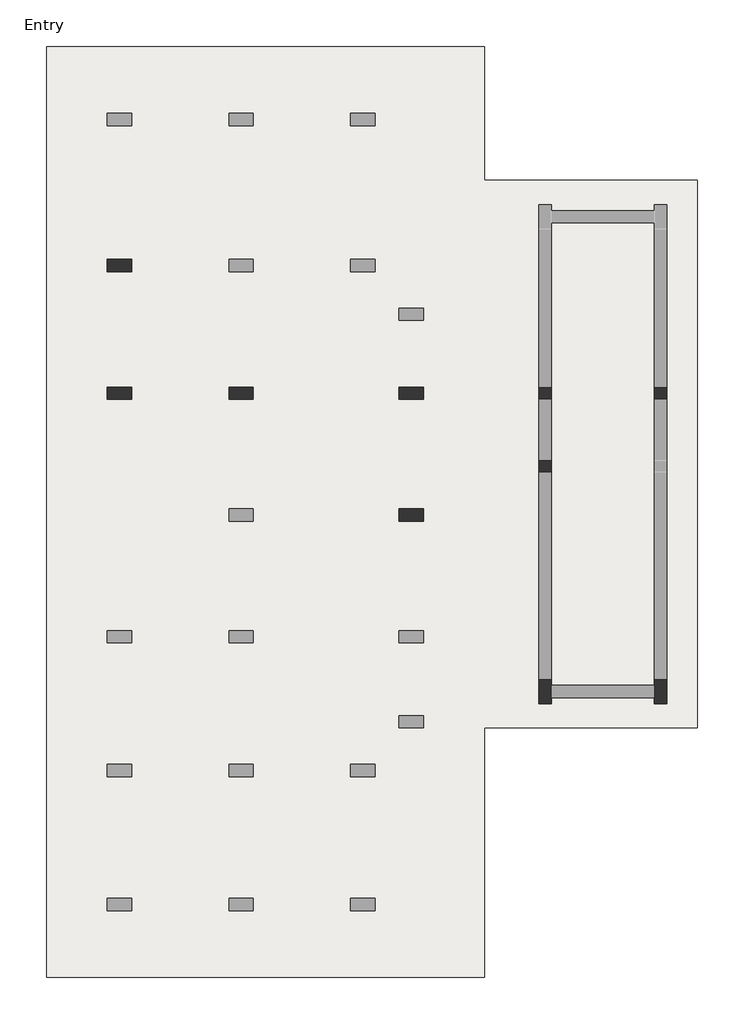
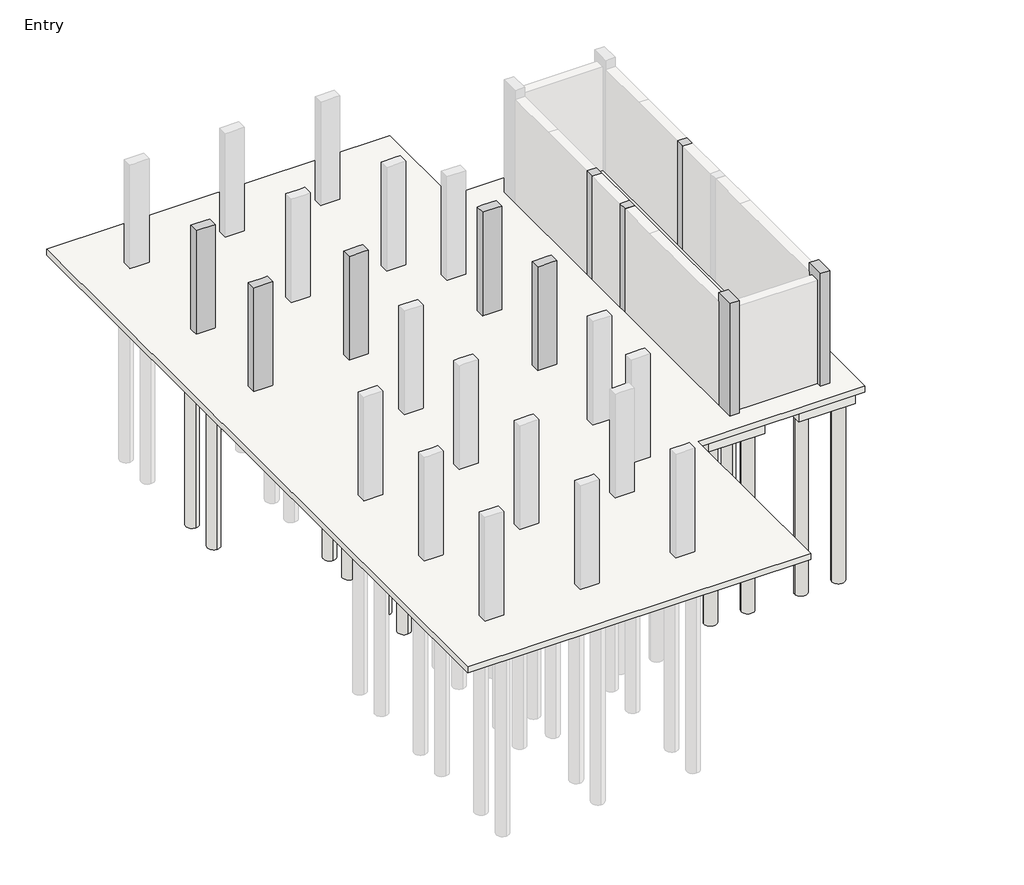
# One storey, part 2 of 3: 32 slabs, 13 columns, 4 footings.
"""IFC4 building model written with IfcOpenShell, lengths in millimetres."""

from ifc_helpers import new_model, si_unit, point, frame, frame_2d, origin, origin_with_axes, place, context, project, spatial, polyline, circle_curve, trimmed, segment, composite_curve, outline, extrude, faceted_brep, element, save

model = new_model("IFC4")

# Units and contexts
model_context = context("Model", 3, world=origin())
ifc_project = project(units=[si_unit("LENGTHUNIT", "METRE", prefix="MILLI")], contexts=[model_context])

# Site, building, storey
site = spatial("IfcSite", under=ifc_project)
building = spatial("IfcBuilding", under=site)
storey = spatial("IfcBuildingStorey", under=building, Name="Entry", Elevation=0.0)

# Columns
placement = place(None, origin())
element("IfcColumn", 1, ObjectType="Concrete-Rectangular-Column : 12 x 24", at=placement, inside=storey, context=model_context, shape_type="Brep", body=[
    faceted_brep([(-15677.5554735, 10989.3867088, 0.0), (-15067.9554735, 10989.3867088, 0.0), (-15067.9554735, 10684.5867088, 0.0), (-15677.5554735, 10684.5867088, 0.0), (-15677.5554735, 10989.3867088, 3505.2), (-15525.1554735, 10989.3867088, 3505.2), (-15220.3554735, 10989.3867088, 3505.2), (-15067.9554735, 10989.3867088, 3505.2), (-15067.9554735, 10989.3867088, 2895.6), (-15067.9554735, 10684.5867088, 3505.2), (-15067.9554735, 10684.5867088, 2895.6), (-15220.3554735, 10684.5867088, 3505.2), (-15525.1554735, 10684.5867088, 3505.2), (-15677.5554735, 10684.5867088, 3505.2)], [[[0, 1, 2, 3]], [[4, 5, 6, 7, 8, 1, 0]], [[7, 9, 10, 2, 1, 8]], [[9, 11, 12, 13, 3, 2, 10]], [[13, 4, 0, 3]], [[4, 13, 12, 11, 9, 7, 6, 5]]]),
])
element("IfcColumn", 2, ObjectType="Concrete-Rectangular-Column : 12 x 24", at=placement, inside=storey, context=model_context, shape_type="Brep", body=[
    faceted_brep([(-8362.3554735, 7788.9867088, 0.0), (-7752.7554735, 7788.9867088, 0.0), (-7752.7554735, 7484.1867088, 0.0), (-8362.3554735, 7484.1867088, 0.0), (-8362.3554735, 7788.9867088, 3505.2), (-8209.9554735, 7788.9867088, 3505.2), (-7905.1554735, 7788.9867088, 3505.2), (-7752.7554735, 7788.9867088, 3505.2), (-7752.7554735, 7788.9867088, 2895.6), (-8362.3554735, 7788.9867088, 2895.6), (-7752.7554735, 7484.1867088, 3505.2), (-7752.7554735, 7484.1867088, 2895.6), (-7905.1554735, 7484.1867088, 3505.2), (-8209.9554735, 7484.1867088, 3505.2), (-8362.3554735, 7484.1867088, 3505.2), (-8362.3554735, 7484.1867088, 2895.6)], [[[0, 1, 2, 3]], [[4, 5, 6, 7, 8, 1, 0, 9]], [[7, 10, 11, 2, 1, 8]], [[10, 12, 13, 14, 15, 3, 2, 11]], [[14, 4, 9, 0, 3, 15]], [[4, 14, 13, 12, 10, 7, 6, 5]]]),
])
element("IfcColumn", 3, ObjectType="Concrete-Rectangular-Column : 12 x 24", at=placement, inside=storey, context=model_context, shape_type="Brep", body=[
    faceted_brep([(-15677.5554735, 7788.9867088, 0.0), (-15067.9554735, 7788.9867088, 0.0), (-15067.9554735, 7484.1867088, 0.0), (-15677.5554735, 7484.1867088, 0.0), (-15677.5554735, 7788.9867088, 3505.2), (-15525.1554735, 7788.9867088, 3505.2), (-15220.3554735, 7788.9867088, 3505.2), (-15067.9554735, 7788.9867088, 3505.2), (-15067.9554735, 7788.9867088, 2895.6), (-15067.9554735, 7484.1867088, 3505.2), (-15067.9554735, 7484.1867088, 2895.6), (-15677.5554735, 7484.1867088, 3505.2)], [[[0, 1, 2, 3]], [[4, 5, 6, 7, 8, 1, 0]], [[7, 9, 10, 2, 1, 8]], [[9, 11, 3, 2, 10]], [[11, 4, 0, 3]], [[4, 11, 9, 7, 6, 5]]]),
])
element("IfcColumn", 4, ObjectType="Concrete-Rectangular-Column : 12 x 24", at=placement, inside=storey, context=model_context, shape_type="Brep", body=[
    faceted_brep([(-12629.5554735, 7788.9867088, 0.0), (-12019.9554735, 7788.9867088, 0.0), (-12019.9554735, 7484.1867088, 0.0), (-12629.5554735, 7484.1867088, 0.0), (-12629.5554735, 7788.9867088, 3505.2), (-12477.1554735, 7788.9867088, 3505.2), (-12172.3554735, 7788.9867088, 3505.2), (-12019.9554735, 7788.9867088, 3505.2), (-12019.9554735, 7788.9867088, 2895.6), (-12629.5554735, 7788.9867088, 2895.6), (-12019.9554735, 7484.1867088, 3505.2), (-12019.9554735, 7484.1867088, 2895.6), (-12172.3554735, 7484.1867088, 3505.2), (-12477.1554735, 7484.1867088, 3505.2), (-12629.5554735, 7484.1867088, 3505.2), (-12629.5554735, 7484.1867088, 2895.6)], [[[0, 1, 2, 3]], [[4, 5, 6, 7, 8, 1, 0, 9]], [[7, 10, 11, 2, 1, 8]], [[10, 12, 13, 14, 15, 3, 2, 11]], [[14, 4, 9, 0, 3, 15]], [[4, 14, 13, 12, 10, 7, 6, 5]]]),
])
element("IfcColumn", 5, ObjectType="Concrete-Rectangular-Column : 12 x 24", at=placement, inside=storey, context=model_context, shape_type="Brep", body=[
    faceted_brep([(-8362.3554735, 4740.9867088, 0.0), (-7752.7554735, 4740.9867088, 0.0), (-7752.7554735, 4436.1867088, 0.0), (-8362.3554735, 4436.1867088, 0.0), (-8362.3554735, 4740.9867088, 3505.2), (-8209.9554735, 4740.9867088, 3505.2), (-7905.1554735, 4740.9867088, 3505.2), (-7752.7554735, 4740.9867088, 3505.2), (-8362.3554735, 4740.9867088, 2895.6), (-7752.7554735, 4436.1867088, 3505.2), (-7905.1554735, 4436.1867088, 3505.2), (-8209.9554735, 4436.1867088, 3505.2), (-8362.3554735, 4436.1867088, 3505.2), (-8362.3554735, 4436.1867088, 2895.6)], [[[0, 1, 2, 3]], [[4, 5, 6, 7, 1, 0, 8]], [[7, 9, 2, 1]], [[9, 10, 11, 12, 13, 3, 2]], [[12, 4, 8, 0, 3, 13]], [[4, 12, 11, 10, 9, 7, 6, 5]]]),
])
element("IfcColumn", 6, ObjectType="Concrete-Rectangular-Column : 12 x 24", at=placement, inside=storey, context=model_context, shape_type="SweptSolid", body=[
    extrude(outline(polyline([(-4857.1554735, 7788.9867088), (-4552.3554735, 7788.9867088), (-4552.3554735, 7484.1867088), (-4857.1554735, 7484.1867088), (-4857.1554735, 7788.9867088)])), origin_with_axes(), (0.0, 0.0, 1.0), 3505.2),
])
element("IfcColumn", 7, ObjectType="Concrete-Rectangular-Column : 12 x 24", at=placement, inside=storey, context=model_context, shape_type="SweptSolid", body=[
    extrude(outline(polyline([(-4552.3554735, 5655.3867088), (-4857.1554735, 5655.3867088), (-4857.1554735, 5960.1867088), (-4552.3554735, 5960.1867088), (-4552.3554735, 5655.3867088)])), origin_with_axes(), (0.0, 0.0, 1.0), 3505.2),
])
element("IfcColumn", 8, ObjectType="Concrete-Rectangular-Column : 12 x 24", at=placement, inside=storey, context=model_context, shape_type="Brep", body=[
    faceted_brep([(-4552.3554735, 473.7867088, 0.0), (-4552.3554735, 321.3867088, 0.0), (-4552.3554735, 16.5867088, 0.0), (-4552.3554735, -135.8132912, 0.0), (-4857.1554735, -135.8132912, 0.0), (-4857.1554735, 473.7867088, 0.0), (-4552.3554735, 473.7867088, 3810.0), (-4552.3554735, -135.8132912, 3810.0), (-4552.3554735, 473.7867088, 3505.2), (-4857.1554735, -135.8132912, 3810.0), (-4857.1554735, 473.7867088, 3810.0), (-4857.1554735, 473.7867088, 3505.2)], [[[0, 1, 2, 3, 4, 5]], [[6, 7, 3, 2, 1, 0, 8]], [[7, 9, 4, 3]], [[9, 10, 11, 5, 4]], [[10, 6, 8, 0, 5, 11]], [[6, 10, 9, 7]]]),
])
element("IfcColumn", 9, ObjectType="Concrete-Rectangular-Column : 12 x 24", at=placement, inside=storey, context=model_context, shape_type="Brep", body=[
    faceted_brep([(-1656.7554735, 473.7867088, 0.0), (-1656.7554735, -135.8132912, 0.0), (-1961.5554735, -135.8132912, 0.0), (-1961.5554735, 16.5867088, 0.0), (-1961.5554735, 321.3867088, 0.0), (-1961.5554735, 473.7867088, 0.0), (-1656.7554735, 473.7867088, 3810.0), (-1656.7554735, -135.8132912, 3810.0), (-1656.7554735, 473.7867088, 3505.2), (-1961.5554735, -135.8132912, 3810.0), (-1961.5554735, 473.7867088, 3810.0), (-1961.5554735, 473.7867088, 3505.2)], [[[0, 1, 2, 3, 4, 5]], [[6, 7, 1, 0, 8]], [[7, 9, 2, 1]], [[9, 10, 11, 5, 4, 3, 2]], [[10, 6, 8, 0, 5, 11]], [[6, 10, 9, 7]]]),
])
element("IfcColumn", 10, ObjectType="Concrete-Rectangular-Column : 12 x 24", at=placement, inside=storey, context=model_context, shape_type="SweptSolid", body=[
    extrude(outline(polyline([(-1961.5554735, 7788.9867088), (-1656.7554735, 7788.9867088), (-1656.7554735, 7484.1867088), (-1961.5554735, 7484.1867088), (-1961.5554735, 7788.9867088)])), origin_with_axes(), (0.0, 0.0, 1.0), 3505.2),
])
element("IfcColumn", 11, ObjectType="Concrete-Rectangular-Column : 12 x 24", at=placement, inside=storey, context=model_context, shape_type="Brep", body=[
    faceted_brep([(-15677.5554735, 10989.3867088, 0.0), (-15067.9554735, 10989.3867088, 0.0), (-15067.9554735, 10684.5867088, 0.0), (-15677.5554735, 10684.5867088, 0.0), (-15677.5554735, 10989.3867088, 3505.2), (-15525.1554735, 10989.3867088, 3505.2), (-15220.3554735, 10989.3867088, 3505.2), (-15067.9554735, 10989.3867088, 3505.2), (-15067.9554735, 10989.3867088, 2895.6), (-15067.9554735, 10684.5867088, 3505.2), (-15067.9554735, 10684.5867088, 2895.6), (-15220.3554735, 10684.5867088, 3505.2), (-15525.1554735, 10684.5867088, 3505.2), (-15677.5554735, 10684.5867088, 3505.2)], [[[0, 1, 2, 3]], [[4, 5, 6, 7, 8, 1, 0]], [[7, 9, 10, 2, 1, 8]], [[9, 11, 12, 13, 3, 2, 10]], [[13, 4, 0, 3]], [[4, 13, 12, 11, 9, 7, 6, 5]]]),
])
element("IfcColumn", 12, ObjectType="Concrete-Rectangular-Column : 12 x 24", at=placement, inside=storey, context=model_context, shape_type="Brep", body=[
    faceted_brep([(-8362.3554735, 7788.9867088, 0.0), (-7752.7554735, 7788.9867088, 0.0), (-7752.7554735, 7484.1867088, 0.0), (-8362.3554735, 7484.1867088, 0.0), (-8362.3554735, 7788.9867088, 3505.2), (-8209.9554735, 7788.9867088, 3505.2), (-7905.1554735, 7788.9867088, 3505.2), (-7752.7554735, 7788.9867088, 3505.2), (-7752.7554735, 7788.9867088, 2895.6), (-8362.3554735, 7788.9867088, 2895.6), (-7752.7554735, 7484.1867088, 3505.2), (-7752.7554735, 7484.1867088, 2895.6), (-7905.1554735, 7484.1867088, 3505.2), (-8209.9554735, 7484.1867088, 3505.2), (-8362.3554735, 7484.1867088, 3505.2), (-8362.3554735, 7484.1867088, 2895.6)], [[[0, 1, 2, 3]], [[4, 5, 6, 7, 8, 1, 0, 9]], [[7, 10, 11, 2, 1, 8]], [[10, 12, 13, 14, 15, 3, 2, 11]], [[14, 4, 9, 0, 3, 15]], [[4, 14, 13, 12, 10, 7, 6, 5]]]),
])
element("IfcColumn", 13, ObjectType="Concrete-Rectangular-Column : 12 x 24", at=placement, inside=storey, context=model_context, shape_type="Brep", body=[
    faceted_brep([(-12629.5554735, 7788.9867088, 0.0), (-12019.9554735, 7788.9867088, 0.0), (-12019.9554735, 7484.1867088, 0.0), (-12629.5554735, 7484.1867088, 0.0), (-12629.5554735, 7788.9867088, 3505.2), (-12477.1554735, 7788.9867088, 3505.2), (-12172.3554735, 7788.9867088, 3505.2), (-12019.9554735, 7788.9867088, 3505.2), (-12019.9554735, 7788.9867088, 2895.6), (-12629.5554735, 7788.9867088, 2895.6), (-12019.9554735, 7484.1867088, 3505.2), (-12019.9554735, 7484.1867088, 2895.6), (-12172.3554735, 7484.1867088, 3505.2), (-12477.1554735, 7484.1867088, 3505.2), (-12629.5554735, 7484.1867088, 3505.2), (-12629.5554735, 7484.1867088, 2895.6)], [[[0, 1, 2, 3]], [[4, 5, 6, 7, 8, 1, 0, 9]], [[7, 10, 11, 2, 1, 8]], [[10, 12, 13, 14, 15, 3, 2, 11]], [[14, 4, 9, 0, 3, 15]], [[4, 14, 13, 12, 10, 7, 6, 5]]]),
])

# Footings
element("IfcFooting", 14, ObjectType="Bearing Footing - 36\" x 12\"", at=placement, inside=storey, context=model_context, shape_type="Brep", body=[
    faceted_brep([(-1351.9554735, 5655.3867088, -304.8), (-1402.7554735, 5655.3867088, -304.8), (-1402.7554735, 5655.3867088, -203.2), (-1351.9554735, 5655.3867088, -203.2), (-2215.5554735, 5655.3867088, -304.8), (-2266.3554735, 5655.3867088, -304.8), (-2266.3554735, 5655.3867088, -203.2), (-2215.5554735, 5655.3867088, -203.2), (-2266.3554735, 626.1867088, -304.8), (-2266.3554735, 575.3867088, -304.8), (-2266.3554735, 575.3867088, -203.2), (-2266.3554735, 626.1867088, -203.2), (-1351.9554735, 575.3867088, -304.8), (-2215.5554735, 4906.0867088, -304.8), (-1402.7554735, 4906.0867088, -304.8), (-1351.9554735, 575.3867088, -203.2), (-1402.7554735, 4906.0867088, -203.2), (-2215.5554735, 4906.0867088, -203.2)], [[[0, 1, 2, 3]], [[4, 5, 6, 7]], [[5, 8, 9, 10, 11, 6]], [[1, 0, 12, 9, 8, 5, 4, 13, 14]], [[12, 0, 3, 15]], [[1, 14, 16, 2]], [[13, 4, 7, 17]], [[14, 13, 17, 16]], [[9, 12, 15, 10]], [[7, 6, 11, 10, 15, 3, 2, 16, 17]]]),
])
element("IfcFooting", 15, ObjectType="Bearing Footing - 36\" x 12\"", at=placement, inside=storey, context=model_context, shape_type="Brep", body=[
    faceted_brep([(-4552.3554735, -237.4132912, -304.8), (-4552.3554735, -288.2132912, -304.8), (-4552.3554735, -288.2132912, -203.2), (-4552.3554735, -237.4132912, -203.2), (-4552.3554735, 626.1867088, -304.8), (-4552.3554735, 575.3867088, -304.8), (-4552.3554735, 575.3867088, -203.2), (-4552.3554735, 626.1867088, -203.2), (-1961.5554735, -288.2132912, -304.8), (-1961.5554735, -237.4132912, -304.8), (-1961.5554735, -237.4132912, -203.2), (-1961.5554735, -288.2132912, -203.2), (-2266.3554735, 626.1867088, -304.8), (-4247.5554735, 626.1867088, -304.8), (-4247.5554735, 626.1867088, -203.2), (-2266.3554735, 626.1867088, -203.2), (-3803.0554735, -237.4132912, -304.8), (-3803.0554735, 575.3867088, -304.8), (-2266.3554735, 575.3867088, -304.8), (-2710.8554735, 575.3867088, -304.8), (-2710.8554735, -237.4132912, -304.8), (-3803.0554735, 575.3867088, -203.2), (-3803.0554735, -237.4132912, -203.2), (-2266.3554735, 575.3867088, -203.2), (-2710.8554735, 575.3867088, -203.2), (-2710.8554735, -237.4132912, -203.2)], [[[0, 1, 2, 3]], [[4, 5, 6, 7]], [[8, 9, 10, 11]], [[12, 13, 4, 7, 14, 15]], [[8, 1, 0, 16, 17, 5, 4, 13, 12, 18, 19, 20, 9]], [[1, 8, 11, 2]], [[5, 17, 21, 6]], [[16, 0, 3, 22]], [[17, 16, 22, 21]], [[19, 18, 23, 24]], [[20, 19, 24, 25]], [[9, 20, 25, 10]], [[18, 12, 15, 23]], [[7, 6, 21, 22, 3, 2, 11, 10, 25, 24, 23, 15, 14]]]),
])
element("IfcFooting", 16, ObjectType="Bearing Footing - 36\" x 12\"", at=placement, inside=storey, context=model_context, shape_type="SweptSolid", body=[
    extrude(outline(polyline([(-4298.3554735, 5655.3867088), (-4247.5554735, 5655.3867088), (-4247.5554735, 626.1867088), (-4552.3554735, 626.1867088), (-4552.3554735, 575.3867088), (-5161.9554735, 575.3867088), (-5161.9554735, 5655.3867088), (-5111.1554735, 5655.3867088), (-5111.1554735, 4906.0867088), (-4298.3554735, 4906.0867088), (-4298.3554735, 5655.3867088)])), frame((0.0, 0.0, -304.8), z_axis=(0.0, 0.0, 1.0), x_axis=(1.0, 0.0, 0.0)), (0.0, 0.0, 1.0), 101.6),
])
element("IfcFooting", 17, ObjectType="Bearing Footing - 36\" x 12\"", at=placement, inside=storey, context=model_context, shape_type="SweptSolid", body=[
    extrude(outline(polyline([(-1351.9554735, 7484.1867088), (-1351.9554735, 5960.1867088), (-1402.7554735, 5960.1867088), (-1402.7554735, 6709.4867088), (-2215.5554735, 6709.4867088), (-2215.5554735, 5960.1867088), (-2266.3554735, 5960.1867088), (-2266.3554735, 7484.1867088), (-2215.5554735, 7484.1867088), (-2215.5554735, 6734.8867088), (-1402.7554735, 6734.8867088), (-1402.7554735, 7484.1867088), (-1351.9554735, 7484.1867088)])), frame((0.0, 0.0, -304.8), z_axis=(0.0, 0.0, 1.0), x_axis=(1.0, 0.0, 0.0)), (0.0, 0.0, 1.0), 101.6),
])

# Slabs
element("IfcSlab", 18, ObjectType="8\" Foundation Slab", at=placement, inside=storey, context=model_context, shape_type="SweptSolid", body=[
    extrude(outline(polyline([(-6228.7554735, 16323.3867088), (-6228.7554735, 12970.5867088), (-894.7554735, 12970.5867088), (-894.7554735, -745.4132912), (-6228.7554735, -745.4132912), (-6228.7554735, -6993.8132912), (-17201.5554735, -6993.8132912), (-17201.5554735, 16323.3867088), (-6228.7554735, 16323.3867088)])), frame((0.0, 0.0, -203.2), z_axis=(0.0, 0.0, 1.0), x_axis=(1.0, 0.0, 0.0)), (0.0, 0.0, 1.0), 203.2),
])
element("IfcSlab", 19, ObjectType="Pile Cap-2 Pile : 31\"x61\"x35\"", at=placement, inside=storey, context=model_context, shape_type="SweptSolid", body=[
    extrude(outline(polyline([(-15779.1554735, 11738.6867088), (-14966.3554735, 11738.6867088), (-14966.3554735, 9935.2867088), (-15779.1554735, 9935.2867088), (-15779.1554735, 11738.6867088)])), frame((0.0, 0.0, -889.0), z_axis=(0.0, 0.0, 1.0), x_axis=(1.0, 0.0, 0.0)), (0.0, 0.0, 1.0), 685.8),
])
element("IfcSlab", 20, ObjectType="Pile Cap-2 Pile : 31\"x61\"x35\"", at=placement, inside=storey, context=model_context, shape_type="SweptSolid", body=[
    extrude(outline(polyline([(-8463.9554735, 5490.2867088), (-7651.1554735, 5490.2867088), (-7651.1554735, 3686.8867088), (-8463.9554735, 3686.8867088), (-8463.9554735, 5490.2867088)])), frame((0.0, 0.0, -889.0), z_axis=(0.0, 0.0, 1.0), x_axis=(1.0, 0.0, 0.0)), (0.0, 0.0, 1.0), 685.8),
])
element("IfcSlab", 21, ObjectType="Pile Cap-2 Pile : 31\"x61\"x35\"", at=placement, inside=storey, context=model_context, shape_type="SweptSolid", body=[
    extrude(outline(polyline([(-8463.9554735, 8538.2867088), (-7651.1554735, 8538.2867088), (-7651.1554735, 6734.8867088), (-8463.9554735, 6734.8867088), (-8463.9554735, 8538.2867088)])), frame((0.0, 0.0, -889.0), z_axis=(0.0, 0.0, 1.0), x_axis=(1.0, 0.0, 0.0)), (0.0, 0.0, 1.0), 685.8),
])
element("IfcSlab", 22, ObjectType="Pile Cap-2 Pile : 31\"x61\"x35\"", at=placement, inside=storey, context=model_context, shape_type="Brep", body=[
    faceted_brep([(-5111.1554735, 8538.2867088, -889.0), (-4298.3554735, 8538.2867088, -889.0), (-4298.3554735, 6734.8867088, -889.0), (-5111.1554735, 6734.8867088, -889.0), (-5111.1554735, 6734.8867088, -203.2), (-5111.1554735, 7788.9867088, -203.2), (-5111.1554735, 8538.2867088, -203.2), (-5111.1554735, 8538.2867088, -304.8), (-4298.3554735, 6734.8867088, -203.2), (-4298.3554735, 8538.2867088, -304.8), (-4298.3554735, 8538.2867088, -203.2), (-4298.3554735, 7788.9867088, -203.2)], [[[0, 1, 2, 3]], [[0, 3, 4, 5, 6, 7]], [[3, 2, 8, 4]], [[2, 1, 9, 10, 11, 8]], [[1, 0, 7, 6, 10, 9]], [[6, 5, 4, 8, 11, 10]]]),
])
element("IfcSlab", 23, ObjectType="Pile Cap-2 Pile : 31\"x61\"x35\"", at=placement, inside=storey, context=model_context, shape_type="Brep", body=[
    faceted_brep([(-2215.5554735, 8538.2867088, -889.0), (-1402.7554735, 8538.2867088, -889.0), (-1402.7554735, 6734.8867088, -889.0), (-2215.5554735, 6734.8867088, -889.0), (-2215.5554735, 6734.8867088, -304.8), (-2215.5554735, 6734.8867088, -203.2), (-2215.5554735, 7484.1867088, -203.2), (-2215.5554735, 7788.9867088, -203.2), (-2215.5554735, 8538.2867088, -203.2), (-2215.5554735, 8538.2867088, -304.8), (-1402.7554735, 6734.8867088, -304.8), (-1402.7554735, 6734.8867088, -203.2), (-1402.7554735, 8538.2867088, -304.8), (-1402.7554735, 8538.2867088, -203.2), (-1402.7554735, 7788.9867088, -203.2), (-1402.7554735, 7484.1867088, -203.2)], [[[0, 1, 2, 3]], [[0, 3, 4, 5, 6, 7, 8, 9]], [[3, 2, 10, 11, 5, 4]], [[2, 1, 12, 13, 14, 15, 11, 10]], [[1, 0, 9, 8, 13, 12]], [[8, 7, 6, 5, 11, 15, 14, 13]]]),
])
element("IfcSlab", 24, ObjectType="Pile Cap-2 Pile : 31\"x61\"x35\"", at=placement, inside=storey, context=model_context, shape_type="Brep", body=[
    faceted_brep([(-4298.3554735, 4906.0867088, -889.0), (-5111.1554735, 4906.0867088, -889.0), (-5111.1554735, 6709.4867088, -889.0), (-4298.3554735, 6709.4867088, -889.0), (-4298.3554735, 6709.4867088, -203.2), (-4298.3554735, 5655.3867088, -203.2), (-4298.3554735, 4906.0867088, -203.2), (-4298.3554735, 4906.0867088, -304.8), (-5111.1554735, 6709.4867088, -203.2), (-5111.1554735, 4906.0867088, -304.8), (-5111.1554735, 4906.0867088, -203.2), (-5111.1554735, 5655.3867088, -203.2)], [[[0, 1, 2, 3]], [[0, 3, 4, 5, 6, 7]], [[3, 2, 8, 4]], [[2, 1, 9, 10, 11, 8]], [[1, 0, 7, 6, 10, 9]], [[6, 5, 4, 8, 11, 10]]]),
])
element("IfcSlab", 25, ObjectType="Pile Cap-2 Pile : 31\"x61\"x35\"", at=placement, inside=storey, context=model_context, shape_type="Brep", body=[
    faceted_brep([(-1402.7554735, 4906.0867088, -889.0), (-2215.5554735, 4906.0867088, -889.0), (-2215.5554735, 6709.4867088, -889.0), (-1402.7554735, 6709.4867088, -889.0), (-1402.7554735, 6709.4867088, -304.8), (-1402.7554735, 6709.4867088, -203.2), (-1402.7554735, 5960.1867088, -203.2), (-1402.7554735, 5655.3867088, -203.2), (-1402.7554735, 4906.0867088, -203.2), (-1402.7554735, 4906.0867088, -304.8), (-2215.5554735, 6709.4867088, -304.8), (-2215.5554735, 6709.4867088, -203.2), (-2215.5554735, 4906.0867088, -304.8), (-2215.5554735, 4906.0867088, -203.2), (-2215.5554735, 5655.3867088, -203.2), (-2215.5554735, 5960.1867088, -203.2)], [[[0, 1, 2, 3]], [[0, 3, 4, 5, 6, 7, 8, 9]], [[3, 2, 10, 11, 5, 4]], [[2, 1, 12, 13, 14, 15, 11, 10]], [[1, 0, 9, 8, 13, 12]], [[8, 7, 6, 5, 11, 15, 14, 13]]]),
])
element("IfcSlab", 26, ObjectType="Pile Cap-2 Pile : 31\"x61\"x35\"", at=placement, inside=storey, context=model_context, shape_type="Brep", body=[
    faceted_brep([(-3803.0554735, 575.3867088, -889.0), (-3803.0554735, -237.4132912, -889.0), (-5606.4554735, -237.4132912, -889.0), (-5606.4554735, 575.3867088, -889.0), (-5606.4554735, 575.3867088, -203.2), (-5161.9554735, 575.3867088, -203.2), (-4552.3554735, 575.3867088, -203.2), (-3803.0554735, 575.3867088, -203.2), (-3803.0554735, 575.3867088, -304.8), (-5606.4554735, -237.4132912, -203.2), (-3803.0554735, -237.4132912, -304.8), (-3803.0554735, -237.4132912, -203.2), (-4552.3554735, -237.4132912, -203.2)], [[[0, 1, 2, 3]], [[0, 3, 4, 5, 6, 7, 8]], [[3, 2, 9, 4]], [[2, 1, 10, 11, 12, 9]], [[1, 0, 8, 7, 11, 10]], [[7, 6, 5, 4, 9, 12, 11]]]),
])
element("IfcSlab", 27, ObjectType="Pile Cap-2 Pile : 31\"x61\"x35\"", at=placement, inside=storey, context=model_context, shape_type="Brep", body=[
    faceted_brep([(-907.4554735, 575.3867088, -889.0), (-907.4554735, -237.4132912, -889.0), (-2710.8554735, -237.4132912, -889.0), (-2710.8554735, 575.3867088, -889.0), (-2710.8554735, 575.3867088, -304.8), (-2710.8554735, 575.3867088, -203.2), (-2266.3554735, 575.3867088, -203.2), (-1351.9554735, 575.3867088, -203.2), (-907.4554735, 575.3867088, -203.2), (-2710.8554735, -237.4132912, -304.8), (-2710.8554735, -237.4132912, -203.2), (-907.4554735, -237.4132912, -203.2), (-1961.5554735, -237.4132912, -203.2)], [[[0, 1, 2, 3]], [[0, 3, 4, 5, 6, 7, 8]], [[3, 2, 9, 10, 5, 4]], [[2, 1, 11, 12, 10, 9]], [[1, 0, 8, 11]], [[8, 7, 6, 5, 10, 12, 11]]]),
])
element("IfcSlab", 28, ObjectType="Pile Cap-4 Pile : 72\"x72\"x35\"", at=placement, inside=storey, context=model_context, shape_type="SweptSolid", body=[
    extrude(outline(polyline([(-13239.1554735, 8550.9867088), (-11410.3554735, 8550.9867088), (-11410.3554735, 6722.1867088), (-13239.1554735, 6722.1867088), (-13239.1554735, 8550.9867088)])), frame((0.0, 0.0, -889.0), z_axis=(0.0, 0.0, 1.0), x_axis=(1.0, 0.0, 0.0)), (0.0, 0.0, 1.0), 685.8),
])
element("IfcSlab", 29, ObjectType="Pile-Steel Pipe : 16\" Diameter", at=placement, inside=storey, context=model_context, shape_type="SweptSolid", body=[
    extrude(outline(composite_curve([segment(trimmed(circle_curve(frame_2d((-12858.1554735, 7103.1867088)), 203.2), [point((-12858.1554735, 6899.9867088))], [point((-12858.1554735, 7306.3867088))], False, "CARTESIAN"), True, "CONTINUOUS"), segment(trimmed(circle_curve(frame_2d((-12858.1554735, 7103.1867088)), 203.2), [point((-12858.1554735, 7306.3867088))], [point((-12858.1554735, 6899.9867088))], False, "CARTESIAN"), True, "CONTINUOUS")], self_intersect=False)), frame((0.0, 0.0, -6985.0), z_axis=(0.0, 0.0, 1.0), x_axis=(1.0, 0.0, 0.0)), (0.0, 0.0, 1.0), 6096.0),
])
element("IfcSlab", 30, ObjectType="Pile-Steel Pipe : 16\" Diameter", at=placement, inside=storey, context=model_context, shape_type="SweptSolid", body=[
    extrude(outline(composite_curve([segment(trimmed(circle_curve(frame_2d((-11791.3554735, 7103.1867088)), 203.2), [point((-11791.3554735, 6899.9867088))], [point((-11791.3554735, 7306.3867088))], False, "CARTESIAN"), True, "CONTINUOUS"), segment(trimmed(circle_curve(frame_2d((-11791.3554735, 7103.1867088)), 203.2), [point((-11791.3554735, 7306.3867088))], [point((-11791.3554735, 6899.9867088))], False, "CARTESIAN"), True, "CONTINUOUS")], self_intersect=False)), frame((0.0, 0.0, -6985.0), z_axis=(0.0, 0.0, 1.0), x_axis=(1.0, 0.0, 0.0)), (0.0, 0.0, 1.0), 6096.0),
])
element("IfcSlab", 31, ObjectType="Pile-Steel Pipe : 16\" Diameter", at=placement, inside=storey, context=model_context, shape_type="SweptSolid", body=[
    extrude(outline(composite_curve([segment(trimmed(circle_curve(frame_2d((-12858.1554735, 8169.9867088)), 203.2), [point((-12858.1554735, 7966.7867088))], [point((-12858.1554735, 8373.1867088))], False, "CARTESIAN"), True, "CONTINUOUS"), segment(trimmed(circle_curve(frame_2d((-12858.1554735, 8169.9867088)), 203.2), [point((-12858.1554735, 8373.1867088))], [point((-12858.1554735, 7966.7867088))], False, "CARTESIAN"), True, "CONTINUOUS")], self_intersect=False)), frame((0.0, 0.0, -6985.0), z_axis=(0.0, 0.0, 1.0), x_axis=(1.0, 0.0, 0.0)), (0.0, 0.0, 1.0), 6096.0),
])
element("IfcSlab", 32, ObjectType="Pile-Steel Pipe : 16\" Diameter", at=placement, inside=storey, context=model_context, shape_type="SweptSolid", body=[
    extrude(outline(composite_curve([segment(trimmed(circle_curve(frame_2d((-12858.1554735, 4055.1867088)), 203.2), [point((-12858.1554735, 3851.9867088))], [point((-12858.1554735, 4258.3867088))], False, "CARTESIAN"), True, "CONTINUOUS"), segment(trimmed(circle_curve(frame_2d((-12858.1554735, 4055.1867088)), 203.2), [point((-12858.1554735, 4258.3867088))], [point((-12858.1554735, 3851.9867088))], False, "CARTESIAN"), True, "CONTINUOUS")], self_intersect=False)), frame((0.0, 0.0, -6985.0), z_axis=(0.0, 0.0, 1.0), x_axis=(1.0, 0.0, 0.0)), (0.0, 0.0, 1.0), 6096.0),
])
element("IfcSlab", 33, ObjectType="Pile-Steel Pipe : 16\" Diameter", at=placement, inside=storey, context=model_context, shape_type="SweptSolid", body=[
    extrude(outline(composite_curve([segment(trimmed(circle_curve(frame_2d((-11791.3554735, 4055.1867088)), 203.2), [point((-11791.3554735, 3851.9867088))], [point((-11791.3554735, 4258.3867088))], False, "CARTESIAN"), True, "CONTINUOUS"), segment(trimmed(circle_curve(frame_2d((-11791.3554735, 4055.1867088)), 203.2), [point((-11791.3554735, 4258.3867088))], [point((-11791.3554735, 3851.9867088))], False, "CARTESIAN"), True, "CONTINUOUS")], self_intersect=False)), frame((0.0, 0.0, -6985.0), z_axis=(0.0, 0.0, 1.0), x_axis=(1.0, 0.0, 0.0)), (0.0, 0.0, 1.0), 6096.0),
])
element("IfcSlab", 34, ObjectType="Pile-Steel Pipe : 16\" Diameter", at=placement, inside=storey, context=model_context, shape_type="SweptSolid", body=[
    extrude(outline(composite_curve([segment(trimmed(circle_curve(frame_2d((-11791.3554735, 5121.9867088)), 203.2), [point((-11791.3554735, 4918.7867088))], [point((-11791.3554735, 5325.1867088))], False, "CARTESIAN"), True, "CONTINUOUS"), segment(trimmed(circle_curve(frame_2d((-11791.3554735, 5121.9867088)), 203.2), [point((-11791.3554735, 5325.1867088))], [point((-11791.3554735, 4918.7867088))], False, "CARTESIAN"), True, "CONTINUOUS")], self_intersect=False)), frame((0.0, 0.0, -6985.0), z_axis=(0.0, 0.0, 1.0), x_axis=(1.0, 0.0, 0.0)), (0.0, 0.0, 1.0), 6096.0),
])
element("IfcSlab", 35, ObjectType="Pile-Steel Pipe : 16\" Diameter", at=placement, inside=storey, context=model_context, shape_type="SweptSolid", body=[
    extrude(outline(composite_curve([segment(trimmed(circle_curve(frame_2d((-12858.1554735, 5121.9867088)), 203.2), [point((-12858.1554735, 4918.7867088))], [point((-12858.1554735, 5325.1867088))], False, "CARTESIAN"), True, "CONTINUOUS"), segment(trimmed(circle_curve(frame_2d((-12858.1554735, 5121.9867088)), 203.2), [point((-12858.1554735, 5325.1867088))], [point((-12858.1554735, 4918.7867088))], False, "CARTESIAN"), True, "CONTINUOUS")], self_intersect=False)), frame((0.0, 0.0, -6985.0), z_axis=(0.0, 0.0, 1.0), x_axis=(1.0, 0.0, 0.0)), (0.0, 0.0, 1.0), 6096.0),
])
element("IfcSlab", 36, ObjectType="Pile-Steel Pipe : 16\" Diameter", at=placement, inside=storey, context=model_context, shape_type="SweptSolid", body=[
    extrude(outline(composite_curve([segment(trimmed(circle_curve(frame_2d((-15372.7554735, 11433.8867088)), 203.2), [point((-15372.7554735, 11230.6867088))], [point((-15372.7554735, 11637.0867088))], False, "CARTESIAN"), True, "CONTINUOUS"), segment(trimmed(circle_curve(frame_2d((-15372.7554735, 11433.8867088)), 203.2), [point((-15372.7554735, 11637.0867088))], [point((-15372.7554735, 11230.6867088))], False, "CARTESIAN"), True, "CONTINUOUS")], self_intersect=False)), frame((0.0, 0.0, -6985.0), z_axis=(0.0, 0.0, 1.0), x_axis=(1.0, 0.0, 0.0)), (0.0, 0.0, 1.0), 6096.0),
])
element("IfcSlab", 37, ObjectType="Pile-Steel Pipe : 16\" Diameter", at=placement, inside=storey, context=model_context, shape_type="SweptSolid", body=[
    extrude(outline(composite_curve([segment(trimmed(circle_curve(frame_2d((-15372.7554735, 10240.0867088)), 203.2), [point((-15372.7554735, 10036.8867088))], [point((-15372.7554735, 10443.2867088))], False, "CARTESIAN"), True, "CONTINUOUS"), segment(trimmed(circle_curve(frame_2d((-15372.7554735, 10240.0867088)), 203.2), [point((-15372.7554735, 10443.2867088))], [point((-15372.7554735, 10036.8867088))], False, "CARTESIAN"), True, "CONTINUOUS")], self_intersect=False)), frame((0.0, 0.0, -6985.0), z_axis=(0.0, 0.0, 1.0), x_axis=(1.0, 0.0, 0.0)), (0.0, 0.0, 1.0), 6096.0),
])
element("IfcSlab", 38, ObjectType="Pile-Steel Pipe : 16\" Diameter", at=placement, inside=storey, context=model_context, shape_type="SweptSolid", body=[
    extrude(outline(composite_curve([segment(trimmed(circle_curve(frame_2d((-8057.5554735, 5185.4867088)), 203.2), [point((-8057.5554735, 4982.2867088))], [point((-8057.5554735, 5388.6867088))], False, "CARTESIAN"), True, "CONTINUOUS"), segment(trimmed(circle_curve(frame_2d((-8057.5554735, 5185.4867088)), 203.2), [point((-8057.5554735, 5388.6867088))], [point((-8057.5554735, 4982.2867088))], False, "CARTESIAN"), True, "CONTINUOUS")], self_intersect=False)), frame((0.0, 0.0, -6985.0), z_axis=(0.0, 0.0, 1.0), x_axis=(1.0, 0.0, 0.0)), (0.0, 0.0, 1.0), 6096.0),
])
element("IfcSlab", 39, ObjectType="Pile-Steel Pipe : 16\" Diameter", at=placement, inside=storey, context=model_context, shape_type="SweptSolid", body=[
    extrude(outline(composite_curve([segment(trimmed(circle_curve(frame_2d((-8057.5554735, 7039.6867088)), 203.2), [point((-8057.5554735, 6836.4867088))], [point((-8057.5554735, 7242.8867088))], False, "CARTESIAN"), True, "CONTINUOUS"), segment(trimmed(circle_curve(frame_2d((-8057.5554735, 7039.6867088)), 203.2), [point((-8057.5554735, 7242.8867088))], [point((-8057.5554735, 6836.4867088))], False, "CARTESIAN"), True, "CONTINUOUS")], self_intersect=False)), frame((0.0, 0.0, -6985.0), z_axis=(0.0, 0.0, 1.0), x_axis=(1.0, 0.0, 0.0)), (0.0, 0.0, 1.0), 6096.0),
])
element("IfcSlab", 40, ObjectType="Pile-Steel Pipe : 16\" Diameter", at=placement, inside=storey, context=model_context, shape_type="SweptSolid", body=[
    extrude(outline(composite_curve([segment(trimmed(circle_curve(frame_2d((-4704.7554735, 7039.6867088)), 203.2), [point((-4704.7554735, 6836.4867088))], [point((-4704.7554735, 7242.8867088))], False, "CARTESIAN"), True, "CONTINUOUS"), segment(trimmed(circle_curve(frame_2d((-4704.7554735, 7039.6867088)), 203.2), [point((-4704.7554735, 7242.8867088))], [point((-4704.7554735, 6836.4867088))], False, "CARTESIAN"), True, "CONTINUOUS")], self_intersect=False)), frame((0.0, 0.0, -6985.0), z_axis=(0.0, 0.0, 1.0), x_axis=(1.0, 0.0, 0.0)), (0.0, 0.0, 1.0), 6096.0),
])
element("IfcSlab", 41, ObjectType="Pile-Steel Pipe : 16\" Diameter", at=placement, inside=storey, context=model_context, shape_type="SweptSolid", body=[
    extrude(outline(composite_curve([segment(trimmed(circle_curve(frame_2d((-1809.1554735, 7039.6867088)), 203.2), [point((-1809.1554735, 6836.4867088))], [point((-1809.1554735, 7242.8867088))], False, "CARTESIAN"), True, "CONTINUOUS"), segment(trimmed(circle_curve(frame_2d((-1809.1554735, 7039.6867088)), 203.2), [point((-1809.1554735, 7242.8867088))], [point((-1809.1554735, 6836.4867088))], False, "CARTESIAN"), True, "CONTINUOUS")], self_intersect=False)), frame((0.0, 0.0, -6985.0), z_axis=(0.0, 0.0, 1.0), x_axis=(1.0, 0.0, 0.0)), (0.0, 0.0, 1.0), 6096.0),
])
element("IfcSlab", 42, ObjectType="Pile-Steel Pipe : 16\" Diameter", at=placement, inside=storey, context=model_context, shape_type="SweptSolid", body=[
    extrude(outline(composite_curve([segment(trimmed(circle_curve(frame_2d((-4704.7554735, 5210.8867088)), 203.2), [point((-4704.7554735, 5414.0867088))], [point((-4704.7554735, 5007.6867088))], False, "CARTESIAN"), True, "CONTINUOUS"), segment(trimmed(circle_curve(frame_2d((-4704.7554735, 5210.8867088)), 203.2), [point((-4704.7554735, 5007.6867088))], [point((-4704.7554735, 5414.0867088))], False, "CARTESIAN"), True, "CONTINUOUS")], self_intersect=False)), frame((0.0, 0.0, -6985.0), z_axis=(0.0, 0.0, 1.0), x_axis=(1.0, 0.0, 0.0)), (0.0, 0.0, 1.0), 6096.0),
])
element("IfcSlab", 43, ObjectType="Pile-Steel Pipe : 16\" Diameter", at=placement, inside=storey, context=model_context, shape_type="SweptSolid", body=[
    extrude(outline(composite_curve([segment(trimmed(circle_curve(frame_2d((-4704.7554735, 6404.6867088)), 203.2), [point((-4704.7554735, 6607.8867088))], [point((-4704.7554735, 6201.4867088))], False, "CARTESIAN"), True, "CONTINUOUS"), segment(trimmed(circle_curve(frame_2d((-4704.7554735, 6404.6867088)), 203.2), [point((-4704.7554735, 6201.4867088))], [point((-4704.7554735, 6607.8867088))], False, "CARTESIAN"), True, "CONTINUOUS")], self_intersect=False)), frame((0.0, 0.0, -6985.0), z_axis=(0.0, 0.0, 1.0), x_axis=(1.0, 0.0, 0.0)), (0.0, 0.0, 1.0), 6096.0),
])
element("IfcSlab", 44, ObjectType="Pile-Steel Pipe : 16\" Diameter", at=placement, inside=storey, context=model_context, shape_type="SweptSolid", body=[
    extrude(outline(composite_curve([segment(trimmed(circle_curve(frame_2d((-1809.1554735, 5210.8867088)), 203.2), [point((-1809.1554735, 5414.0867088))], [point((-1809.1554735, 5007.6867088))], False, "CARTESIAN"), True, "CONTINUOUS"), segment(trimmed(circle_curve(frame_2d((-1809.1554735, 5210.8867088)), 203.2), [point((-1809.1554735, 5007.6867088))], [point((-1809.1554735, 5414.0867088))], False, "CARTESIAN"), True, "CONTINUOUS")], self_intersect=False)), frame((0.0, 0.0, -6985.0), z_axis=(0.0, 0.0, 1.0), x_axis=(1.0, 0.0, 0.0)), (0.0, 0.0, 1.0), 6096.0),
])
element("IfcSlab", 45, ObjectType="Pile-Steel Pipe : 16\" Diameter", at=placement, inside=storey, context=model_context, shape_type="SweptSolid", body=[
    extrude(outline(composite_curve([segment(trimmed(circle_curve(frame_2d((-1809.1554735, 6404.6867088)), 203.2), [point((-1809.1554735, 6607.8867088))], [point((-1809.1554735, 6201.4867088))], False, "CARTESIAN"), True, "CONTINUOUS"), segment(trimmed(circle_curve(frame_2d((-1809.1554735, 6404.6867088)), 203.2), [point((-1809.1554735, 6201.4867088))], [point((-1809.1554735, 6607.8867088))], False, "CARTESIAN"), True, "CONTINUOUS")], self_intersect=False)), frame((0.0, 0.0, -6985.0), z_axis=(0.0, 0.0, 1.0), x_axis=(1.0, 0.0, 0.0)), (0.0, 0.0, 1.0), 6096.0),
])
element("IfcSlab", 46, ObjectType="Pile-Steel Pipe : 16\" Diameter", at=placement, inside=storey, context=model_context, shape_type="SweptSolid", body=[
    extrude(outline(composite_curve([segment(trimmed(circle_curve(frame_2d((-4107.8554735, 168.9867088)), 203.2), [point((-4311.0554735, 168.9867088))], [point((-3904.6554735, 168.9867088))], False, "CARTESIAN"), True, "CONTINUOUS"), segment(trimmed(circle_curve(frame_2d((-4107.8554735, 168.9867088)), 203.2), [point((-3904.6554735, 168.9867088))], [point((-4311.0554735, 168.9867088))], False, "CARTESIAN"), True, "CONTINUOUS")], self_intersect=False)), frame((0.0, 0.0, -6985.0), z_axis=(0.0, 0.0, 1.0), x_axis=(1.0, 0.0, 0.0)), (0.0, 0.0, 1.0), 6096.0),
])
element("IfcSlab", 47, ObjectType="Pile-Steel Pipe : 16\" Diameter", at=placement, inside=storey, context=model_context, shape_type="SweptSolid", body=[
    extrude(outline(composite_curve([segment(trimmed(circle_curve(frame_2d((-5301.6554735, 168.9867088)), 203.2), [point((-5504.8554735, 168.9867088))], [point((-5098.4554735, 168.9867088))], False, "CARTESIAN"), True, "CONTINUOUS"), segment(trimmed(circle_curve(frame_2d((-5301.6554735, 168.9867088)), 203.2), [point((-5098.4554735, 168.9867088))], [point((-5504.8554735, 168.9867088))], False, "CARTESIAN"), True, "CONTINUOUS")], self_intersect=False)), frame((0.0, 0.0, -6985.0), z_axis=(0.0, 0.0, 1.0), x_axis=(1.0, 0.0, 0.0)), (0.0, 0.0, 1.0), 6096.0),
])
element("IfcSlab", 48, ObjectType="Pile-Steel Pipe : 16\" Diameter", at=placement, inside=storey, context=model_context, shape_type="SweptSolid", body=[
    extrude(outline(composite_curve([segment(trimmed(circle_curve(frame_2d((-1212.2554735, 168.9867088)), 203.2), [point((-1415.4554735, 168.9867088))], [point((-1009.0554735, 168.9867088))], False, "CARTESIAN"), True, "CONTINUOUS"), segment(trimmed(circle_curve(frame_2d((-1212.2554735, 168.9867088)), 203.2), [point((-1009.0554735, 168.9867088))], [point((-1415.4554735, 168.9867088))], False, "CARTESIAN"), True, "CONTINUOUS")], self_intersect=False)), frame((0.0, 0.0, -6985.0), z_axis=(0.0, 0.0, 1.0), x_axis=(1.0, 0.0, 0.0)), (0.0, 0.0, 1.0), 6096.0),
])
element("IfcSlab", 49, ObjectType="Pile-Steel Pipe : 16\" Diameter", at=placement, inside=storey, context=model_context, shape_type="SweptSolid", body=[
    extrude(outline(composite_curve([segment(trimmed(circle_curve(frame_2d((-2406.0554735, 168.9867088)), 203.2), [point((-2609.2554735, 168.9867088))], [point((-2202.8554735, 168.9867088))], False, "CARTESIAN"), True, "CONTINUOUS"), segment(trimmed(circle_curve(frame_2d((-2406.0554735, 168.9867088)), 203.2), [point((-2202.8554735, 168.9867088))], [point((-2609.2554735, 168.9867088))], False, "CARTESIAN"), True, "CONTINUOUS")], self_intersect=False)), frame((0.0, 0.0, -6985.0), z_axis=(0.0, 0.0, 1.0), x_axis=(1.0, 0.0, 0.0)), (0.0, 0.0, 1.0), 6096.0),
])

save(model, "model.ifc")
